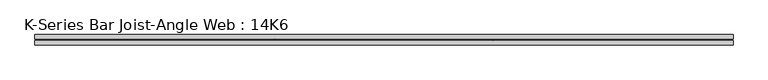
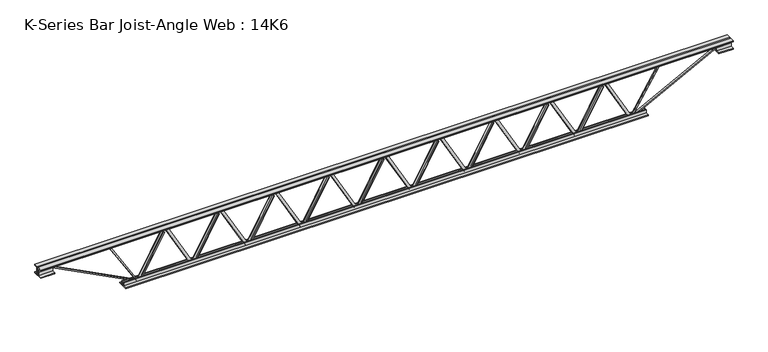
"""IFC4 building model written with IfcOpenShell, lengths in millimetres: beam geometry, K-Series Bar Joist-Angle Web : 14K6."""

from ifc_helpers import new_model, si_unit, frame, origin, place, context, project, spatial, polyline, outline, extrude, faceted_brep, source, transform, mapped, element, save


def k_series_bar_joist_angle_web_14k6_bbb4c935(model_context):
    return source(origin(), model_context, "Body", "SolidModel", [
        extrude(outline(polyline([(-4.7625, 4.7625), (-4.7625, 0.0), (-17.4625, 0.0), (-17.4625, 4.7625), (-4.7625, 4.7625)])), frame((1346.5285082, 0.0, -139.7), z_axis=(-0.48706831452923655, 0.0, 0.8733638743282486), x_axis=(0.0, -1.0, 0.0)), (0.0, 0.0, 1.0), 319.9124766),
        extrude(outline(polyline([(-174.625, 1377.95), (-155.575, 1377.95), (-155.575, 1377.1940879), (174.625, 1193.0440879), (174.625, 1174.75), (155.575, 1174.75), (155.575, 1181.8559121), (-174.625, 1366.0059121), (-174.625, 1377.95)])), frame((0.0, 0.0, 0.0), z_axis=(0.0, 1.0, 0.0), x_axis=(0.0, 0.0, 1.0)), (0.0, 0.0, 1.0), 4.7625),
        faceted_brep([(984.25, 0.0, -155.575), (984.25, 0.0, -174.625), (984.25, -4.7625, -174.625), (984.25, -4.7625, -155.575), (985.0059121, 0.0, -155.575), (1169.1559121, 0.0, 174.625), (1187.45, 0.0, 174.625), (1187.45, 0.0, 155.575), (1180.3440879, 0.0, 155.575), (996.1940879, 0.0, -174.625), (996.1940879, -4.7625, -174.625), (1015.6714918, -4.7625, -139.7), (1011.5120963, -4.7625, -137.3803372), (1167.3313271, -4.7625, 142.0196628), (1171.4907225, -4.7625, 139.7), (1180.3440879, -4.7625, 155.575), (1187.45, -4.7625, 155.575), (1187.45, -4.7625, 174.625), (1169.1559121, -4.7625, 174.625), (985.0059121, -4.7625, -155.575), (1171.4907225, -17.4625, 139.7), (1015.6714918, -17.4625, -139.7), (1011.5120963, -17.4625, -137.3803372), (1167.3313271, -17.4625, 142.0196628)], [[[0, 1, 2, 3]], [[1, 0, 4, 5, 6, 7, 8, 9]], [[2, 1, 9, 10]], [[3, 2, 10, 11, 12, 13, 14, 15, 16, 17, 18, 19]], [[0, 3, 19, 4]], [[9, 8, 15, 14, 20, 21, 11, 10]], [[5, 4, 19, 18]], [[7, 6, 17, 16]], [[8, 7, 16, 15]], [[6, 5, 18, 17]], [[21, 22, 12, 11]], [[20, 14, 13, 23]], [[22, 21, 20, 23]], [[12, 22, 23, 13]]]),
        extrude(outline(polyline([(-4.7625, 4.7625), (-4.7625, 0.0), (-17.4625, 0.0), (-17.4625, 4.7625), (-4.7625, 4.7625)])), frame((952.8285082, 0.0, -139.7), z_axis=(-0.48706831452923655, 0.0, 0.8733638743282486), x_axis=(0.0, -1.0, 0.0)), (0.0, 0.0, 1.0), 319.9124766),
        extrude(outline(polyline([(-174.625, 984.25), (-155.575, 984.25), (-155.575, 983.4940879), (174.625, 799.3440879), (174.625, 781.05), (155.575, 781.05), (155.575, 788.1559121), (-174.625, 972.3059121), (-174.625, 984.25)])), frame((0.0, 0.0, 0.0), z_axis=(0.0, 1.0, 0.0), x_axis=(0.0, 0.0, 1.0)), (0.0, 0.0, 1.0), 4.7625),
        faceted_brep([(590.55, 0.0, -155.575), (590.55, 0.0, -174.625), (590.55, -4.7625, -174.625), (590.55, -4.7625, -155.575), (591.3059121, 0.0, -155.575), (775.4559121, 0.0, 174.625), (793.75, 0.0, 174.625), (793.75, 0.0, 155.575), (786.6440879, 0.0, 155.575), (602.4940879, 0.0, -174.625), (602.4940879, -4.7625, -174.625), (621.9714918, -4.7625, -139.7), (617.8120963, -4.7625, -137.3803372), (773.6313271, -4.7625, 142.0196628), (777.7907225, -4.7625, 139.7), (786.6440879, -4.7625, 155.575), (793.75, -4.7625, 155.575), (793.75, -4.7625, 174.625), (775.4559121, -4.7625, 174.625), (591.3059121, -4.7625, -155.575), (777.7907225, -17.4625, 139.7), (621.9714918, -17.4625, -139.7), (617.8120963, -17.4625, -137.3803372), (773.6313271, -17.4625, 142.0196628)], [[[0, 1, 2, 3]], [[1, 0, 4, 5, 6, 7, 8, 9]], [[2, 1, 9, 10]], [[3, 2, 10, 11, 12, 13, 14, 15, 16, 17, 18, 19]], [[0, 3, 19, 4]], [[9, 8, 15, 14, 20, 21, 11, 10]], [[5, 4, 19, 18]], [[7, 6, 17, 16]], [[8, 7, 16, 15]], [[6, 5, 18, 17]], [[21, 22, 12, 11]], [[20, 14, 13, 23]], [[22, 21, 20, 23]], [[12, 22, 23, 13]]]),
        extrude(outline(polyline([(-4.7625, 4.7625), (-4.7625, 0.0), (-17.4625, 0.0), (-17.4625, 4.7625), (-4.7625, 4.7625)])), frame((559.1285082, 0.0, -139.7), z_axis=(-0.48706831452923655, 0.0, 0.8733638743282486), x_axis=(0.0, -1.0, 0.0)), (0.0, 0.0, 1.0), 319.9124766),
        extrude(outline(polyline([(-174.625, 590.55), (-155.575, 590.55), (-155.575, 589.7940879), (174.625, 405.6440879), (174.625, 387.35), (155.575, 387.35), (155.575, 394.4559121), (-174.625, 578.6059121), (-174.625, 590.55)])), frame((0.0, 0.0, 0.0), z_axis=(0.0, 1.0, 0.0), x_axis=(0.0, 0.0, 1.0)), (0.0, 0.0, 1.0), 4.7625),
        faceted_brep([(196.85, 0.0, -155.575), (196.85, 0.0, -174.625), (196.85, -4.7625, -174.625), (196.85, -4.7625, -155.575), (197.6059121, 0.0, -155.575), (381.7559121, 0.0, 174.625), (400.05, 0.0, 174.625), (400.05, 0.0, 155.575), (392.9440879, 0.0, 155.575), (208.7940879, 0.0, -174.625), (208.7940879, -4.7625, -174.625), (228.2714918, -4.7625, -139.7), (224.1120963, -4.7625, -137.3803372), (379.9313271, -4.7625, 142.0196628), (384.0907225, -4.7625, 139.7), (392.9440879, -4.7625, 155.575), (400.05, -4.7625, 155.575), (400.05, -4.7625, 174.625), (381.7559121, -4.7625, 174.625), (197.6059121, -4.7625, -155.575), (384.0907225, -17.4625, 139.7), (228.2714918, -17.4625, -139.7), (224.1120963, -17.4625, -137.3803372), (379.9313271, -17.4625, 142.0196628)], [[[0, 1, 2, 3]], [[1, 0, 4, 5, 6, 7, 8, 9]], [[2, 1, 9, 10]], [[3, 2, 10, 11, 12, 13, 14, 15, 16, 17, 18, 19]], [[0, 3, 19, 4]], [[9, 8, 15, 14, 20, 21, 11, 10]], [[5, 4, 19, 18]], [[7, 6, 17, 16]], [[8, 7, 16, 15]], [[6, 5, 18, 17]], [[21, 22, 12, 11]], [[20, 14, 13, 23]], [[22, 21, 20, 23]], [[12, 22, 23, 13]]]),
        extrude(outline(polyline([(-4.7625, 4.7625), (-4.7625, 0.0), (-17.4625, 0.0), (-17.4625, 4.7625), (-4.7625, 4.7625)])), frame((165.4285082, 0.0, -139.7), z_axis=(-0.48706831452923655, 0.0, 0.8733638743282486), x_axis=(0.0, -1.0, 0.0)), (0.0, 0.0, 1.0), 319.9124766),
        extrude(outline(polyline([(-174.625, 196.85), (-155.575, 196.85), (-155.575, 196.0940879), (174.625, 11.9440879), (174.625, -6.35), (155.575, -6.35), (155.575, 0.7559121), (-174.625, 184.9059121), (-174.625, 196.85)])), frame((0.0, 0.0, 0.0), z_axis=(0.0, 1.0, 0.0), x_axis=(0.0, 0.0, 1.0)), (0.0, 0.0, 1.0), 4.7625),
        faceted_brep([(-196.85, 0.0, -155.575), (-196.85, 0.0, -174.625), (-196.85, -4.7625, -174.625), (-196.85, -4.7625, -155.575), (-196.0940879, 0.0, -155.575), (-11.9440879, 0.0, 174.625), (6.35, 0.0, 174.625), (6.35, 0.0, 155.575), (-0.7559121, 0.0, 155.575), (-184.9059121, 0.0, -174.625), (-184.9059121, -4.7625, -174.625), (-165.4285082, -4.7625, -139.7), (-169.5879037, -4.7625, -137.3803372), (-13.7686729, -4.7625, 142.0196628), (-9.6092775, -4.7625, 139.7), (-0.7559121, -4.7625, 155.575), (6.35, -4.7625, 155.575), (6.35, -4.7625, 174.625), (-11.9440879, -4.7625, 174.625), (-196.0940879, -4.7625, -155.575), (-9.6092775, -17.4625, 139.7), (-165.4285082, -17.4625, -139.7), (-169.5879037, -17.4625, -137.3803372), (-13.7686729, -17.4625, 142.0196628)], [[[0, 1, 2, 3]], [[1, 0, 4, 5, 6, 7, 8, 9]], [[2, 1, 9, 10]], [[3, 2, 10, 11, 12, 13, 14, 15, 16, 17, 18, 19]], [[0, 3, 19, 4]], [[9, 8, 15, 14, 20, 21, 11, 10]], [[5, 4, 19, 18]], [[7, 6, 17, 16]], [[8, 7, 16, 15]], [[6, 5, 18, 17]], [[21, 22, 12, 11]], [[20, 14, 13, 23]], [[22, 21, 20, 23]], [[12, 22, 23, 13]]]),
        extrude(outline(polyline([(-4.7625, 4.7625), (-4.7625, 0.0), (-17.4625, 0.0), (-17.4625, 4.7625), (-4.7625, 4.7625)])), frame((-228.2714918, 0.0, -139.7), z_axis=(-0.48706831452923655, 0.0, 0.8733638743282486), x_axis=(0.0, -1.0, 0.0)), (0.0, 0.0, 1.0), 319.9124766),
        extrude(outline(polyline([(-174.625, -196.85), (-155.575, -196.85), (-155.575, -197.6059121), (174.625, -381.7559121), (174.625, -400.05), (155.575, -400.05), (155.575, -392.9440879), (-174.625, -208.7940879), (-174.625, -196.85)])), frame((0.0, 0.0, 0.0), z_axis=(0.0, 1.0, 0.0), x_axis=(0.0, 0.0, 1.0)), (0.0, 0.0, 1.0), 4.7625),
        faceted_brep([(-590.55, 0.0, -155.575), (-590.55, 0.0, -174.625), (-590.55, -4.7625, -174.625), (-590.55, -4.7625, -155.575), (-589.7940879, 0.0, -155.575), (-405.6440879, 0.0, 174.625), (-387.35, 0.0, 174.625), (-387.35, 0.0, 155.575), (-394.4559121, 0.0, 155.575), (-578.6059121, 0.0, -174.625), (-578.6059121, -4.7625, -174.625), (-559.1285082, -4.7625, -139.7), (-563.2879037, -4.7625, -137.3803372), (-407.4686729, -4.7625, 142.0196628), (-403.3092775, -4.7625, 139.7), (-394.4559121, -4.7625, 155.575), (-387.35, -4.7625, 155.575), (-387.35, -4.7625, 174.625), (-405.6440879, -4.7625, 174.625), (-589.7940879, -4.7625, -155.575), (-403.3092775, -17.4625, 139.7), (-559.1285082, -17.4625, -139.7), (-563.2879037, -17.4625, -137.3803372), (-407.4686729, -17.4625, 142.0196628)], [[[0, 1, 2, 3]], [[1, 0, 4, 5, 6, 7, 8, 9]], [[2, 1, 9, 10]], [[3, 2, 10, 11, 12, 13, 14, 15, 16, 17, 18, 19]], [[0, 3, 19, 4]], [[9, 8, 15, 14, 20, 21, 11, 10]], [[5, 4, 19, 18]], [[7, 6, 17, 16]], [[8, 7, 16, 15]], [[6, 5, 18, 17]], [[21, 22, 12, 11]], [[20, 14, 13, 23]], [[22, 21, 20, 23]], [[12, 22, 23, 13]]]),
        extrude(outline(polyline([(-4.7625, 4.7625), (-4.7625, 0.0), (-17.4625, 0.0), (-17.4625, 4.7625), (-4.7625, 4.7625)])), frame((-621.9714918, 0.0, -139.7), z_axis=(-0.48706831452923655, 0.0, 0.8733638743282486), x_axis=(0.0, -1.0, 0.0)), (0.0, 0.0, 1.0), 319.9124766),
        extrude(outline(polyline([(-174.625, -590.55), (-155.575, -590.55), (-155.575, -591.3059121), (174.625, -775.4559121), (174.625, -793.75), (155.575, -793.75), (155.575, -786.6440879), (-174.625, -602.4940879), (-174.625, -590.55)])), frame((0.0, 0.0, 0.0), z_axis=(0.0, 1.0, 0.0), x_axis=(0.0, 0.0, 1.0)), (0.0, 0.0, 1.0), 4.7625),
        faceted_brep([(-984.25, 0.0, -155.575), (-984.25, 0.0, -174.625), (-984.25, -4.7625, -174.625), (-984.25, -4.7625, -155.575), (-983.4940879, 0.0, -155.575), (-799.3440879, 0.0, 174.625), (-781.05, 0.0, 174.625), (-781.05, 0.0, 155.575), (-788.1559121, 0.0, 155.575), (-972.3059121, 0.0, -174.625), (-972.3059121, -4.7625, -174.625), (-952.8285082, -4.7625, -139.7), (-956.9879037, -4.7625, -137.3803372), (-801.1686729, -4.7625, 142.0196628), (-797.0092775, -4.7625, 139.7), (-788.1559121, -4.7625, 155.575), (-781.05, -4.7625, 155.575), (-781.05, -4.7625, 174.625), (-799.3440879, -4.7625, 174.625), (-983.4940879, -4.7625, -155.575), (-797.0092775, -17.4625, 139.7), (-952.8285082, -17.4625, -139.7), (-956.9879037, -17.4625, -137.3803372), (-801.1686729, -17.4625, 142.0196628)], [[[0, 1, 2, 3]], [[1, 0, 4, 5, 6, 7, 8, 9]], [[2, 1, 9, 10]], [[3, 2, 10, 11, 12, 13, 14, 15, 16, 17, 18, 19]], [[0, 3, 19, 4]], [[9, 8, 15, 14, 20, 21, 11, 10]], [[5, 4, 19, 18]], [[7, 6, 17, 16]], [[8, 7, 16, 15]], [[6, 5, 18, 17]], [[21, 22, 12, 11]], [[20, 14, 13, 23]], [[22, 21, 20, 23]], [[12, 22, 23, 13]]]),
        extrude(outline(polyline([(-4.7625, 4.7625), (-4.7625, 0.0), (-17.4625, 0.0), (-17.4625, 4.7625), (-4.7625, 4.7625)])), frame((-1015.6714918, 0.0, -139.7), z_axis=(-0.48706831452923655, 0.0, 0.8733638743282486), x_axis=(0.0, -1.0, 0.0)), (0.0, 0.0, 1.0), 319.9124766),
        extrude(outline(polyline([(-174.625, -984.25), (-155.575, -984.25), (-155.575, -985.0059121), (174.625, -1169.1559121), (174.625, -1187.45), (155.575, -1187.45), (155.575, -1180.3440879), (-174.625, -996.1940879), (-174.625, -984.25)])), frame((0.0, 0.0, 0.0), z_axis=(0.0, 1.0, 0.0), x_axis=(0.0, 0.0, 1.0)), (0.0, 0.0, 1.0), 4.7625),
        faceted_brep([(-1377.95, 0.0, -155.575), (-1377.95, 0.0, -174.625), (-1377.95, -4.7625, -174.625), (-1377.95, -4.7625, -155.575), (-1377.1940879, 0.0, -155.575), (-1193.0440879, 0.0, 174.625), (-1174.75, 0.0, 174.625), (-1174.75, 0.0, 155.575), (-1181.8559121, 0.0, 155.575), (-1366.0059121, 0.0, -174.625), (-1366.0059121, -4.7625, -174.625), (-1346.5285082, -4.7625, -139.7), (-1350.6879037, -4.7625, -137.3803372), (-1194.8686729, -4.7625, 142.0196628), (-1190.7092775, -4.7625, 139.7), (-1181.8559121, -4.7625, 155.575), (-1174.75, -4.7625, 155.575), (-1174.75, -4.7625, 174.625), (-1193.0440879, -4.7625, 174.625), (-1377.1940879, -4.7625, -155.575), (-1190.7092775, -17.4625, 139.7), (-1346.5285082, -17.4625, -139.7), (-1350.6879037, -17.4625, -137.3803372), (-1194.8686729, -17.4625, 142.0196628)], [[[0, 1, 2, 3]], [[1, 0, 4, 5, 6, 7, 8, 9]], [[2, 1, 9, 10]], [[3, 2, 10, 11, 12, 13, 14, 15, 16, 17, 18, 19]], [[0, 3, 19, 4]], [[9, 8, 15, 14, 20, 21, 11, 10]], [[5, 4, 19, 18]], [[7, 6, 17, 16]], [[8, 7, 16, 15]], [[6, 5, 18, 17]], [[21, 22, 12, 11]], [[20, 14, 13, 23]], [[22, 21, 20, 23]], [[12, 22, 23, 13]]]),
        extrude(outline(polyline([(-4.7625, 4.7625), (-4.7625, 0.0), (-17.4625, 0.0), (-17.4625, 4.7625), (-4.7625, 4.7625)])), frame((1740.2285082, 0.0, -139.7), z_axis=(-0.48706831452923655, 0.0, 0.8733638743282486), x_axis=(0.0, -1.0, 0.0)), (0.0, 0.0, 1.0), 319.9124766),
        extrude(outline(polyline([(-174.625, 1771.65), (-155.575, 1771.65), (-155.575, 1770.8940879), (174.625, 1586.7440879), (174.625, 1568.45), (155.575, 1568.45), (155.575, 1575.5559121), (-174.625, 1759.7059121), (-174.625, 1771.65)])), frame((0.0, 0.0, 0.0), z_axis=(0.0, 1.0, 0.0), x_axis=(0.0, 0.0, 1.0)), (0.0, 0.0, 1.0), 4.7625),
        faceted_brep([(1377.95, 0.0, -155.575), (1377.95, 0.0, -174.625), (1377.95, -4.7625, -174.625), (1377.95, -4.7625, -155.575), (1378.7059121, 0.0, -155.575), (1562.8559121, 0.0, 174.625), (1581.15, 0.0, 174.625), (1581.15, 0.0, 155.575), (1574.0440879, 0.0, 155.575), (1389.8940879, 0.0, -174.625), (1389.8940879, -4.7625, -174.625), (1409.3714918, -4.7625, -139.7), (1405.2120963, -4.7625, -137.3803372), (1561.0313271, -4.7625, 142.0196628), (1565.1907225, -4.7625, 139.7), (1574.0440879, -4.7625, 155.575), (1581.15, -4.7625, 155.575), (1581.15, -4.7625, 174.625), (1562.8559121, -4.7625, 174.625), (1378.7059121, -4.7625, -155.575), (1565.1907225, -17.4625, 139.7), (1409.3714918, -17.4625, -139.7), (1405.2120963, -17.4625, -137.3803372), (1561.0313271, -17.4625, 142.0196628)], [[[0, 1, 2, 3]], [[1, 0, 4, 5, 6, 7, 8, 9]], [[2, 1, 9, 10]], [[3, 2, 10, 11, 12, 13, 14, 15, 16, 17, 18, 19]], [[0, 3, 19, 4]], [[9, 8, 15, 14, 20, 21, 11, 10]], [[5, 4, 19, 18]], [[7, 6, 17, 16]], [[8, 7, 16, 15]], [[6, 5, 18, 17]], [[21, 22, 12, 11]], [[20, 14, 13, 23]], [[22, 21, 20, 23]], [[12, 22, 23, 13]]]),
        extrude(outline(polyline([(-4.7625, 4.7625), (-4.7625, 0.0), (-17.4625, 0.0), (-17.4625, 4.7625), (-4.7625, 4.7625)])), frame((-1409.3714918, 0.0, -139.7), z_axis=(-0.48706831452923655, 0.0, 0.8733638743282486), x_axis=(0.0, -1.0, 0.0)), (0.0, 0.0, 1.0), 319.9124766),
        extrude(outline(polyline([(-174.625, -1377.95), (-155.575, -1377.95), (-155.575, -1378.7059121), (174.625, -1562.8559121), (174.625, -1581.15), (155.575, -1581.15), (155.575, -1574.0440879), (-174.625, -1389.8940879), (-174.625, -1377.95)])), frame((0.0, 0.0, 0.0), z_axis=(0.0, 1.0, 0.0), x_axis=(0.0, 0.0, 1.0)), (0.0, 0.0, 1.0), 4.7625),
        faceted_brep([(-1771.65, 0.0, -155.575), (-1771.65, 0.0, -174.625), (-1771.65, -4.7625, -174.625), (-1771.65, -4.7625, -155.575), (-1770.8940879, 0.0, -155.575), (-1586.7440879, 0.0, 174.625), (-1568.45, 0.0, 174.625), (-1568.45, 0.0, 155.575), (-1575.5559121, 0.0, 155.575), (-1759.7059121, 0.0, -174.625), (-1759.7059121, -4.7625, -174.625), (-1740.2285082, -4.7625, -139.7), (-1744.3879037, -4.7625, -137.3803372), (-1588.5686729, -4.7625, 142.0196628), (-1584.4092775, -4.7625, 139.7), (-1575.5559121, -4.7625, 155.575), (-1568.45, -4.7625, 155.575), (-1568.45, -4.7625, 174.625), (-1586.7440879, -4.7625, 174.625), (-1770.8940879, -4.7625, -155.575), (-1584.4092775, -17.4625, 139.7), (-1740.2285082, -17.4625, -139.7), (-1744.3879037, -17.4625, -137.3803372), (-1588.5686729, -17.4625, 142.0196628)], [[[0, 1, 2, 3]], [[1, 0, 4, 5, 6, 7, 8, 9]], [[2, 1, 9, 10]], [[3, 2, 10, 11, 12, 13, 14, 15, 16, 17, 18, 19]], [[0, 3, 19, 4]], [[9, 8, 15, 14, 20, 21, 11, 10]], [[5, 4, 19, 18]], [[7, 6, 17, 16]], [[8, 7, 16, 15]], [[6, 5, 18, 17]], [[21, 22, 12, 11]], [[20, 14, 13, 23]], [[22, 21, 20, 23]], [[12, 22, 23, 13]]]),
        extrude(outline(polyline([(4.7625, 177.8), (36.5125, 177.8), (36.5125, 171.45), (11.1125, 171.45), (11.1125, 146.05), (4.7625, 146.05), (4.7625, 177.8)])), frame((-2482.85, 0.0, 0.0), z_axis=(1.0, 0.0, 0.0), x_axis=(0.0, 1.0, 0.0)), (0.0, 0.0, 1.0), 4965.7),
        extrude(outline(polyline([(-4.7625, 177.8), (-4.7625, 146.05), (-11.1125, 146.05), (-11.1125, 171.45), (-36.5125, 171.45), (-36.5125, 177.8), (-4.7625, 177.8)])), frame((-2482.85, 0.0, 0.0), z_axis=(1.0, 0.0, 0.0), x_axis=(0.0, 1.0, 0.0)), (0.0, 0.0, 1.0), 4965.7),
        extrude(outline(polyline([(4.7625, -177.8), (4.7625, -146.05), (11.1125, -146.05), (11.1125, -171.45), (36.5125, -171.45), (36.5125, -177.8), (4.7625, -177.8)])), frame((-1873.25, 0.0, 0.0), z_axis=(1.0, 0.0, 0.0), x_axis=(0.0, 1.0, 0.0)), (0.0, 0.0, 1.0), 3746.5),
        extrude(outline(polyline([(-4.7625, -177.8), (-36.5125, -177.8), (-36.5125, -171.45), (-11.1125, -171.45), (-11.1125, -146.05), (-4.7625, -146.05), (-4.7625, -177.8)])), frame((-1873.25, 0.0, 0.0), z_axis=(1.0, 0.0, 0.0), x_axis=(0.0, 1.0, 0.0)), (0.0, 0.0, 1.0), 3746.5),
        extrude(outline(polyline([(4.7625, 114.3), (4.7625, 146.05), (11.1125, 146.05), (11.1125, 120.65), (36.5125, 120.65), (36.5125, 114.3), (4.7625, 114.3)])), frame((2381.25, 0.0, 0.0), z_axis=(1.0, 0.0, 0.0), x_axis=(0.0, 1.0, 0.0)), (0.0, 0.0, 1.0), 101.6),
        extrude(outline(polyline([(-4.7625, 114.3), (-36.5125, 114.3), (-36.5125, 120.65), (-11.1125, 120.65), (-11.1125, 146.05), (-4.7625, 146.05), (-4.7625, 114.3)])), frame((2381.25, 0.0, 0.0), z_axis=(1.0, 0.0, 0.0), x_axis=(0.0, 1.0, 0.0)), (0.0, 0.0, 1.0), 101.6),
        extrude(outline(polyline([(-4.7625, 114.3), (-36.5125, 114.3), (-36.5125, 120.65), (-11.1125, 120.65), (-11.1125, 146.05), (-4.7625, 146.05), (-4.7625, 114.3)])), frame((-2482.85, 0.0, 0.0), z_axis=(1.0, 0.0, 0.0), x_axis=(0.0, 1.0, 0.0)), (0.0, 0.0, 1.0), 101.6),
        extrude(outline(polyline([(36.5125, 114.3), (4.7625, 114.3), (4.7625, 146.05), (11.1125, 146.05), (11.1125, 120.65), (36.5125, 120.65), (36.5125, 114.3)])), frame((-2482.85, 0.0, 0.0), z_axis=(1.0, 0.0, 0.0), x_axis=(0.0, 1.0, 0.0)), (0.0, 0.0, 1.0), 101.6),
        extrude(outline(polyline([(4.7625, 4.7625), (4.7625, -4.7625), (-4.7625, -4.7625), (-4.7625, 4.7625), (4.7625, 4.7625)])), frame((-1771.65, 0.0, -171.45), z_axis=(-0.5269396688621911, 0.0, 0.8499026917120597), x_axis=(0.0, -1.0, 0.0)), (0.0, 0.0, 1.0), 373.5721784),
        extrude(outline(polyline([(4.7625, 4.7625), (4.7625, -4.7625), (-4.7625, -4.7625), (-4.7625, 4.7625), (4.7625, 4.7625)])), frame((1771.65, 0.0, -171.45), z_axis=(0.5269396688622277, 0.0, 0.849902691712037), x_axis=(0.0, -1.0, 0.0)), (0.0, 0.0, 1.0), 373.5721784),
        extrude(outline(polyline([(0.0, -9.525), (0.0, 0.0), (687.3270037, 0.0), (687.3270037, -9.525), (0.0, -9.525)])), frame((-2383.4499627, 4.7625, 141.8260717), z_axis=(0.4619344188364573, 0.0, 0.8869140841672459), x_axis=(0.8869140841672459, 0.0, -0.4619344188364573)), (0.0, 0.0, 1.0), 9.525),
        extrude(outline(polyline([(0.0, -9.525), (0.0, 0.0), (687.3270037, 0.0), (687.3270037, -9.525), (0.0, -9.525)])), frame((2383.4499627, -4.7625, 141.8260717), z_axis=(-0.4619344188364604, 0.0, 0.8869140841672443), x_axis=(-0.8869140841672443, 0.0, -0.4619344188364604)), (0.0, 0.0, 1.0), 9.525),
    ])


if __name__ == "__main__":
    model = new_model("IFC4")
    model_context = context("Model", 3, world=origin())
    ifc_project = project(units=[si_unit("LENGTHUNIT", "METRE", prefix="MILLI")], contexts=[model_context])
    site = spatial("IfcSite", under=ifc_project)
    building = spatial("IfcBuilding", under=site)
    placement = place(None, origin())
    k_series_bar_joist_angle_web_14k6_shape = k_series_bar_joist_angle_web_14k6_bbb4c935(model_context)
    element("IfcBeam", 1, ObjectType="K-Series Bar Joist-Angle Web : 14K6", at=placement, inside=building, context=model_context, shape_type="MappedRepresentation", body=[
        mapped(k_series_bar_joist_angle_web_14k6_shape, transform((0.0, 0.0, 0.0), x_axis=(1.0, 0.0, 0.0), y_axis=(0.0, 1.0, 0.0), z_axis=(0.0, 0.0, 1.0))),
    ])
    save(model, "model.ifc")
